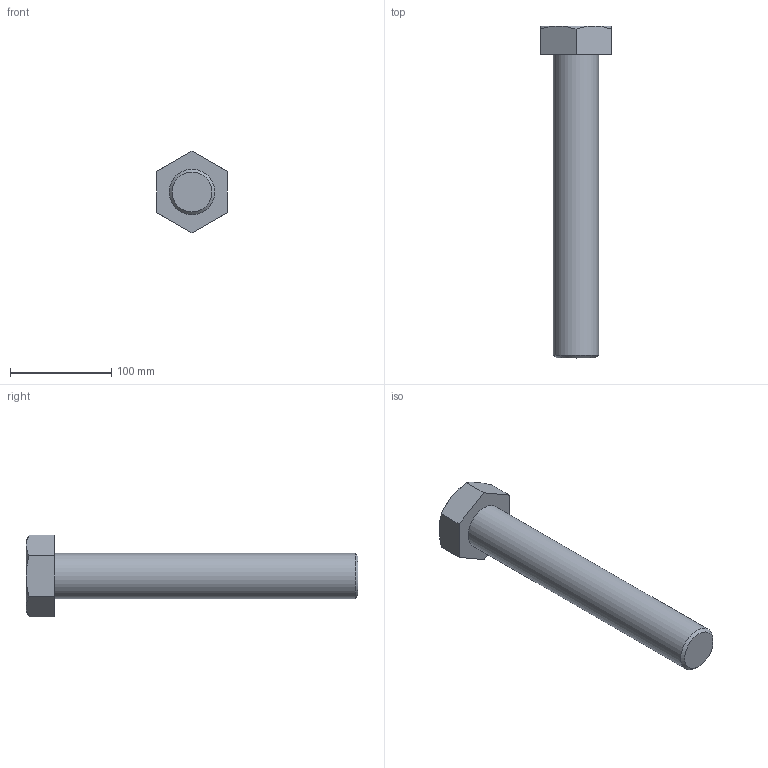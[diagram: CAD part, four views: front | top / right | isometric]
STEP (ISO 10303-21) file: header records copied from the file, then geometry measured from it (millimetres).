
FILE_DESCRIPTION(/* description */ (''),/* implementation_level */ '2;1');
FILE_NAME(/* name */ 'C:\Users\unitec\Documents\Inventor\各種小物\JIS\JIS B 1180 六角ボルト 等級C\hbc45\M45x300.stp',/* time_stamp */ '2015-02-13T14:58:26+09:00',/* author */ ('unitec'),/* organization */ (''),/* preprocessor_version */ 'ST-DEVELOPER v15.2',/* originating_system */ 'Autodesk Inventor 2014',/* authorisation */ '');
FILE_SCHEMA (('AUTOMOTIVE_DESIGN { 1 0 10303 214 3 1 1 }'));
Length unit declared in the file: millimetre
Products named in the file (1): M45x300
Bounding box: 70 x 328 x 80.83 mm (x, y, z)
Volume: 595059.3 mm3; surface area: 57250.8 mm2
Topology: 1 solids, 1 shells, 17 faces, 35 edges, 21 vertices
Faces by surface type: plane 9, cone 7, cylinder 1
Full cylindrical faces by diameter (mm): 45 x1
Entity records: 441 total; most frequent: CARTESIAN_POINT 96, ORIENTED_EDGE 66, DIRECTION 66, EDGE_CURVE 33, AXIS2_PLACEMENT_3D 27, VERTEX_POINT 21, EDGE_LOOP 20, ADVANCED_FACE 17
